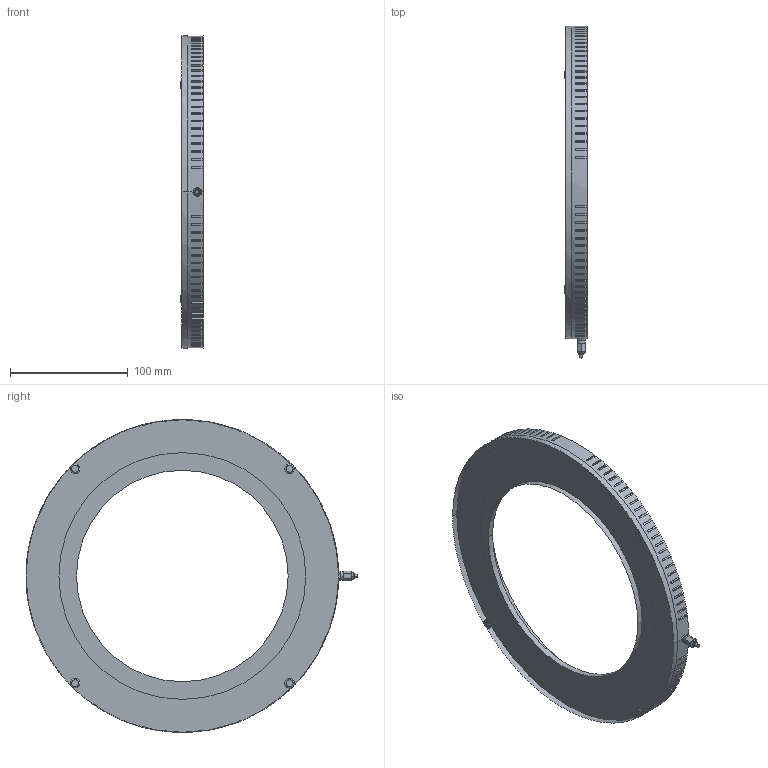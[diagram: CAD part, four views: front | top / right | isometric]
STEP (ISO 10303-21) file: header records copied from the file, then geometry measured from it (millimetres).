
FILE_DESCRIPTION( ( '' ), '1' );
FILE_NAME( '//expscmdclustefs.cadenas.external/client_exchange/iodir/jobs/output/wkb54753836_no0/STEP/HPR_250RD_2_03.stp', '2013-02-22T11:47:10', ( '' ), ( '' ), ' ', ' ', ' ' );
FILE_SCHEMA( ( 'CONFIG_CONTROL_DESIGN' ) );
Length unit declared in the file: millimetre
Products named in the file (2): 1; 2
Bounding box: 18.9 x 282.45 x 266 mm (x, y, z)
Volume: 420701.3 mm3; surface area: 132284.3 mm2
Topology: 2 solids, 2 shells, 506 faces, 1448 edges, 945 vertices
Faces by surface type: plane 436, cylinder 42, cone 28
Entity records: 16477 total; most frequent: CARTESIAN_POINT 2944, ORIENTED_EDGE 2880, DIRECTION 2761, EDGE_CURVE 1440, LINE 1113, VECTOR 1113, VERTEX_POINT 945, AXIS2_PLACEMENT_3D 824
